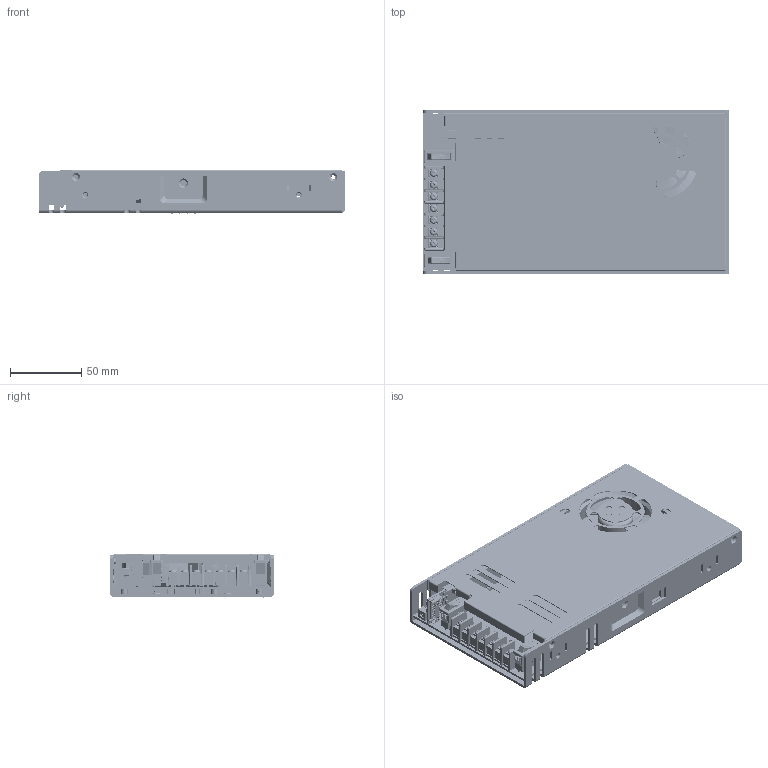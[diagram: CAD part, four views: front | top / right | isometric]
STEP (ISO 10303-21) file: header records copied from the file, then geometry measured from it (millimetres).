
FILE_DESCRIPTION(('Creo Elements/Direct Modeling STEP Export'),'2;1');
FILE_NAME('LAD-240.stp','2024-04-11T 9:52:07',(''),(''),'PTC Creo Elements/Direct Modeling STEP processor for AP214 (Solid Model)','PTC Creo Elements/Direct Modeling 19.0E 27-Jun-2016 (C) Parametric Technology GmbH','');
FILE_SCHEMA(('AUTOMOTIVE_DESIGN { 1 0 10303 214 1 1 1 1 }'));
Length unit declared in the file: millimetre
Products named in the file (285): PCBA; FAN_4715KL40WB30_2.1; FAN_4715KL40WB30_2; FAN-ALL; DG35S-B-07P-13-32A_H_.prt; DG35S-B-07P-13-32A_H_.stp; uu.3; 63; 55; 1HH2LAD-360; a1.1; BOTTOM-CASE; TOP-CASE; MOS15.5x10.1.1.1.1.1.1.1.1.1.1.1.1.1.1.1; mos; 3024-K5P10T3SB05BKBK.prt; GF063X.1; 3024-K5P10T3SB05BKBK.stp; 3024-K5P10T3SB05BKBK.prt.1; BOARD.PRT; 755589088.ASM; R415.ASM; EXTRUDED-18980.PRT; 984336976.ASM.17; EXTRUDED-19669.PRT; 984337296.ASM.15; EXTRUDED-20041.PRT; 984337136.ASM.16; CN6.ASM; 755597752.PRT; C330.ASM; 755592584_1.PRT; 755592584_2.PRT; 755592584_3.PRT; 755592584_4.PRT; 755592584.ASM; R337.ASM; 2CQ1-SOT89.PRT; Q300.ASM; EXTRUDED-40317.PRT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
Assembly tree (511 placements, depth 9):
  LAD-240.stp
    LRS-350.stp
      LRS-350
        装配1
          LAD-360BU智能款-R0.step
            PCB.ASM
              R414.ASM
                755589088.ASM
              R306.ASM
                755589088.ASM
              D300.ASM
                2CQ1-SC70-6.PRT
              D330.ASM
                2CDX-SOD323.PRT
              R263.ASM
                755589544.ASM
                  755589544_4.PRT
                  755589544_3.PRT
                  755589544_2.PRT
                  755589544_1.PRT
              R264.ASM
                755589088.ASM
              D306.ASM
                2CDX-SOD323.PRT
              R402.ASM
                755589240.ASM
                  755589240_4.PRT
                  755589240_3.PRT
                  755589240_2.PRT
                  755589240_1.PRT
              BC31.ASM
                842894352.ASM.5  x2
                  EXTRUDED-260487.PRT
                842894192.ASM
                  EXTRUDED-260115.PRT
              Q330.ASM
                2CDX-SOT23.PRT
              R324.ASM
                755589240.ASM
                  755589240_4.PRT
                  755589240_3.PRT
                  755589240_2.PRT
                  755589240_1.PRT
              D304.ASM
                2CDX-SOD323.PRT
              R322.ASM
                755589544.ASM
                  755589544_4.PRT
                  755589544_3.PRT
                  755589544_2.PRT
                  755589544_1.PRT
              Q311.ASM
                2CDX-SOT23.PRT
              R294.ASM
                755589544.ASM
                  755589544_4.PRT
                  755589544_3.PRT
                  755589544_2.PRT
                  755589544_1.PRT
              R295.ASM
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Bounding box: 215 x 115 x 30.9 mm (x, y, z)
Volume: 171116.5 mm3; surface area: 220145.2 mm2
Topology: 377 solids, 391 shells, 15869 faces, 42597 edges, 27873 vertices
Faces by surface type: plane 10693, cylinder 2246, extrusion 2136, sphere 385, torus 299, bspline 84, cone 26
Entity records: 342333 total; most frequent: CARTESIAN_POINT 72396, ORIENTED_EDGE 47116, DIRECTION 42393, EDGE_CURVE 23558, VECTOR 19507, LINE 19234, VERTEX_POINT 15397, AXIS2_PLACEMENT_3D 11443
